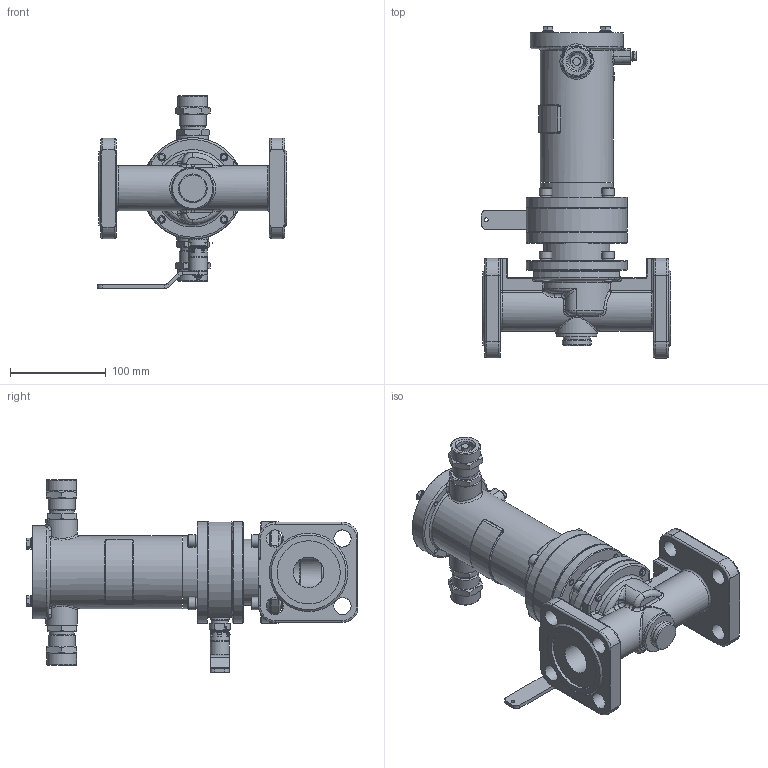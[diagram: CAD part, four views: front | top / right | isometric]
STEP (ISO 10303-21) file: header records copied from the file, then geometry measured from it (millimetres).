
FILE_DESCRIPTION(('STEP AP203'), '1');
FILE_NAME('捇迕-珅 DN32PN25', '', ('UNSPECIFIED'), ('UNSPECIFIED'), 'C3D Converter', 'C3D Toolkit', '');
FILE_SCHEMA(('CONFIG_CONTROL_DESIGN'));
Length unit declared in the file: millimetre
Bounding box: 197.59 x 346.7 x 201.62 mm (x, y, z)
Volume: 401400.3 mm3; surface area: 374433.1 mm2
Topology: 10 solids, 12 shells, 3114 faces, 8420 edges, 5440 vertices
Faces by surface type: plane 1324, cylinder 1201, extrusion 240, cone 182, bspline 90, torus 75, sphere 2
Full cylindrical faces by diameter (mm): 1 x2, 2.459 x1, 3 x1, 3.1 x1, 3.242 x1, 3.5 x2, 4 x2, 4.134 x1, 4.3 x1, 4.917 x6, 5 x2, 6 x13, 6.3 x1, 6.5 x1, 6.647 x4, 7 x1, 8 x17, 8.5 x4, 9 x9, 10 x3, 11 x1, 12 x6, 13 x10, 13.8 x1, 14 x1, 15 x1, 16 x1, 17 x1, 17.8 x1, 18 x8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
Entity records: 147687 total; most frequent: CARTESIAN_POINT 45685, ORIENTED_EDGE 16085, DIRECTION 15668, EDGE_CURVE 8043, AXIS2_PLACEMENT_3D 5665, VERTEX_POINT 5416, VECTOR 4338, LINE 4098
